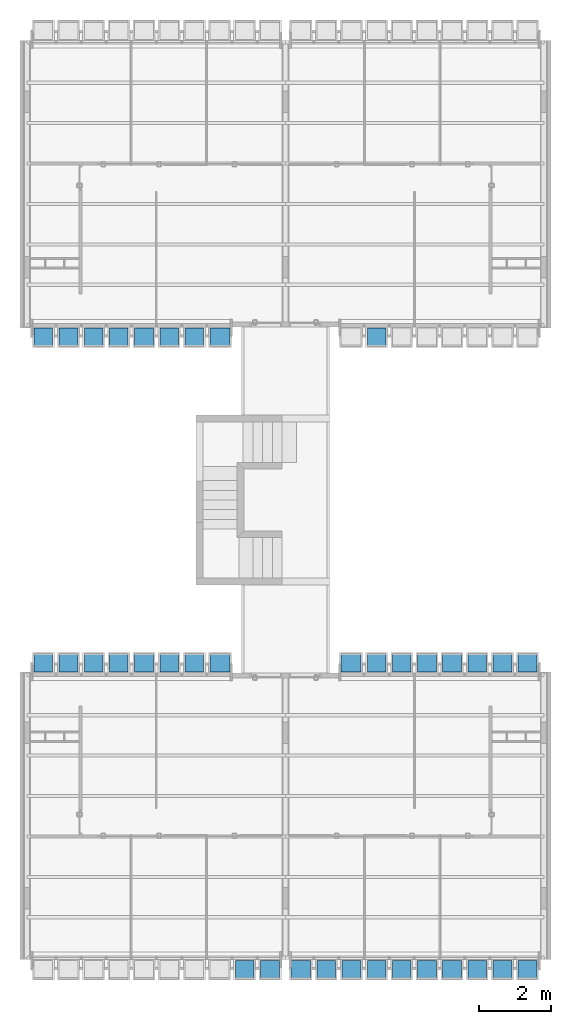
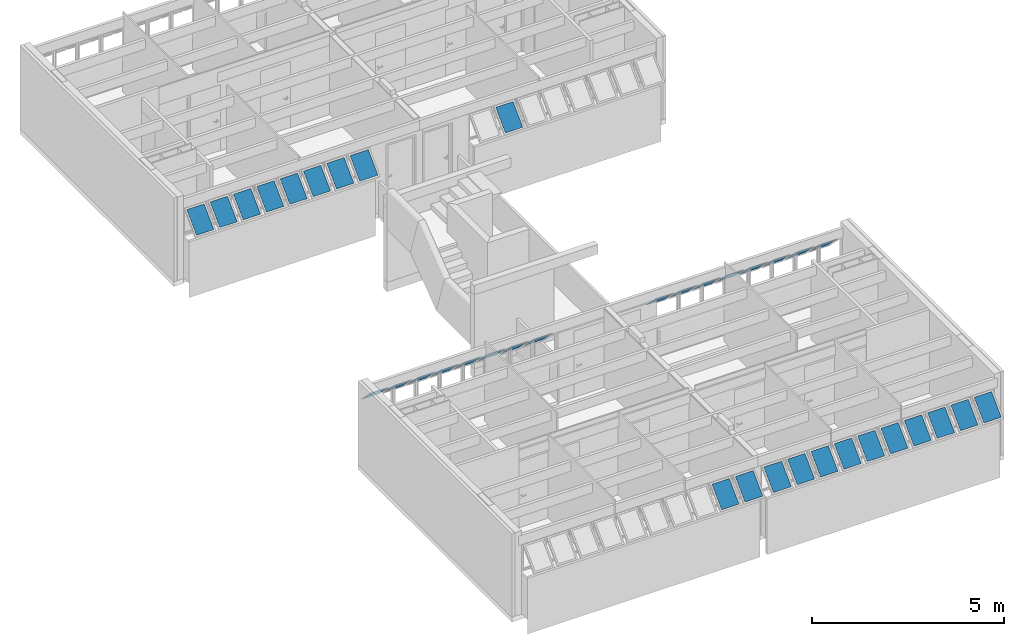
# One storey, part 35 of 37: 37 building element parts, 43 elements without a shape of their own.
"""IFC2X3 building model written with IfcOpenShell, lengths in millimetres."""

from ifc_helpers import new_model, entity, si_unit, converted_unit, derived_unit, money_unit, direction, frame, origin_with_axes, place, context, subcontext, project, spatial, faceted_brep, source, transform, mapped, material, type_object, element, aggregate, save


model = new_model("IFC2X3")

# Units and contexts
model_context = context("Model", 3, precision=0.01, world=origin_with_axes(), true_north=direction((0.0, 1.0)))
body_context = subcontext(model_context, "Body", "Model", "MODEL_VIEW")
ifc_project = project(units=[si_unit("LENGTHUNIT", "METRE", prefix="MILLI"), si_unit("AREAUNIT", "SQUARE_METRE"), si_unit("VOLUMEUNIT", "CUBIC_METRE"), converted_unit("PLANEANGLEUNIT", "DEGREE", entity("IfcPlaneAngleMeasure", 0.0174532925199), si_unit("PLANEANGLEUNIT", "RADIAN"), dimensions=[0, 0, 0, 0, 0, 0, 0]), money_unit("USD"), converted_unit("TIMEUNIT", "Year", entity("IfcTimeMeasure", 31556926.0), si_unit("TIMEUNIT", "SECOND"), dimensions=[0, 0, 1, 0, 0, 0, 0]), si_unit("MASSUNIT", "GRAM", prefix="KILO"), si_unit("THERMODYNAMICTEMPERATUREUNIT", "DEGREE_CELSIUS"), si_unit("LUMINOUSINTENSITYUNIT", "LUMEN"), si_unit("ENERGYUNIT", "JOULE", prefix="MEGA"), derived_unit("THERMALCONDUCTANCEUNIT", [(si_unit("POWERUNIT", "WATT"), 1), (si_unit("LENGTHUNIT", "METRE"), -1), (si_unit("THERMODYNAMICTEMPERATUREUNIT", "KELVIN"), -1)]), derived_unit("SPECIFICHEATCAPACITYUNIT", [(si_unit("ENERGYUNIT", "JOULE"), 1), (si_unit("MASSUNIT", "GRAM", prefix="KILO"), -1), (si_unit("THERMODYNAMICTEMPERATUREUNIT", "KELVIN"), -1)]), derived_unit("MASSDENSITYUNIT", [(si_unit("MASSUNIT", "GRAM", prefix="KILO"), 1), (si_unit("VOLUMEUNIT", "CUBIC_METRE"), -1)])], contexts=[model_context])

# Site, building, storey
site_placement = place(None, origin_with_axes())
site = spatial("IfcSite", under=ifc_project, at=site_placement, Name="Local", CompositionType="ELEMENT")
building_placement = place(site_placement, origin_with_axes())
building = spatial("IfcBuilding", under=site, at=building_placement, Name="Construção", CompositionType="ELEMENT")
storey_placement = place(building_placement, origin_with_axes())
storey = spatial("IfcBuildingStorey", under=building, at=storey_placement, Name="Primeiro Pavimento", CompositionType="ELEMENT", Elevation=0.0)

# Window, plates, building element parts
window_style = type_object("IfcWindowStyle", Name="Tipo de Parede Cortina", ConstructionType="NOTDEFINED", OperationType="NOTDEFINED", ParameterTakesPrecedence=False, Sizeable=False)
window_1_placement = place(storey_placement, frame((12020.0, 8250.0, 1355.00007107), z_axis=(0.0, 0.0, 1.0), x_axis=(1.0, 0.0, 0.0)))
window_1 = element("IfcWindow", 1, at=window_1_placement, inside=storey, type_object=window_style, Name="APTO2-JANELA-000")
plate_type_1 = type_object("IfcPlateType", Name="Painel Principal 690 x 845 x 20", PredefinedType="CURTAIN_PANEL")
plate_1_placement = place(window_1_placement, frame((0.0, 0.0, 422.499964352), z_axis=(0.0, 0.0, 1.0), x_axis=(1.0, 0.0, 0.0)))
plate_1 = element("IfcPlate", 2, at=plate_1_placement, type_object=plate_type_1, Name="APTO2-Painel-Prin-013")
ifc_material = material(Name="Vidro")
shared_shape_1 = source(origin_with_axes(), body_context, "Body", "Brep", [
    faceted_brep([(90.0000036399, 272.749572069, 537.551834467), (609.999997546, 272.749572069, 537.551834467), (609.999997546, 284.063280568, 548.865542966), (90.0000036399, 284.063280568, 548.865542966), (90.0000036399, 778.330843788, 31.9705627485), (609.999997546, 778.330843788, 31.9705627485), (609.999997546, 789.644552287, 43.2842712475), (90.0000036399, 789.644552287, 43.2842712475)], [[[0, 1, 2, 3]], [[0, 4, 5, 1]], [[1, 5, 6, 2]], [[3, 2, 6, 7]], [[4, 0, 3, 7]], [[5, 4, 7, 6]]]),
])
building_element_part_1_placement = place(plate_1_placement, origin_with_axes())
building_element_part_1 = element("IfcBuildingElementPart", 3, at=building_element_part_1_placement, material=ifc_material, Name="Vidro", context=body_context, shape_type="MappedRepresentation", body=[
    mapped(shared_shape_1, transform((350.0, 0.0, -422.499964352), x_axis=(-1.0, 0.0, 0.0), y_axis=(0.0, 0.0, 1.0), z_axis=(0.0, 1.0, 0.0))),
])
aggregate(plate_1, [building_element_part_1])
plate_2_placement = place(window_1_placement, frame((-2100.0, 0.0, 422.499964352), z_axis=(0.0, 0.0, 1.0), x_axis=(1.0, 0.0, 0.0)))
plate_2 = element("IfcPlate", 4, at=plate_2_placement, type_object=plate_type_1, Name="APTO2-Painel-Prin-029")
building_element_part_2_placement = place(plate_2_placement, origin_with_axes())
building_element_part_2 = element("IfcBuildingElementPart", 5, at=building_element_part_2_placement, material=ifc_material, Name="Vidro", context=body_context, shape_type="MappedRepresentation", body=[
    mapped(shared_shape_1, transform((350.0, 0.0, -422.499964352), x_axis=(-1.0, 0.0, 0.0), y_axis=(0.0, 0.0, 1.0), z_axis=(0.0, 1.0, 0.0))),
])
aggregate(plate_2, [building_element_part_2])

window_2_placement = place(storey_placement, frame((2750.0, 17910.0, 1355.00007107), z_axis=(0.0, 0.0, 1.0), x_axis=(1.0, 0.0, 0.0)))
window_2 = element("IfcWindow", 6, at=window_2_placement, inside=storey, type_object=window_style, Name="APTO3-JANELA-000")
plate_3_placement = place(window_2_placement, frame((0.0, 0.0, 422.499964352), z_axis=(0.0, 0.0, 1.0), x_axis=(-1.0, 0.0, 0.0)))
plate_3 = element("IfcPlate", 7, at=plate_3_placement, type_object=plate_type_1, Name="APTO3-Painel-Prin-013")
building_element_part_3_placement = place(plate_3_placement, origin_with_axes())
building_element_part_3 = element("IfcBuildingElementPart", 8, at=building_element_part_3_placement, material=ifc_material, Name="Vidro", context=body_context, shape_type="MappedRepresentation", body=[
    mapped(shared_shape_1, transform((350.0, 0.0, -422.499964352), x_axis=(-1.0, 0.0, 0.0), y_axis=(0.0, 0.0, 1.0), z_axis=(0.0, 1.0, 0.0))),
])
aggregate(plate_3, [building_element_part_3])
plate_4_placement = place(window_2_placement, frame((2100.0, 0.0, 422.499964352), z_axis=(0.0, 0.0, 1.0), x_axis=(-1.0, 0.0, 0.0)))
plate_4 = element("IfcPlate", 9, at=plate_4_placement, type_object=plate_type_1, Name="APTO3-Painel-Prin-029")
building_element_part_4_placement = place(plate_4_placement, origin_with_axes())
building_element_part_4 = element("IfcBuildingElementPart", 10, at=building_element_part_4_placement, material=ifc_material, Name="Vidro", context=body_context, shape_type="MappedRepresentation", body=[
    mapped(shared_shape_1, transform((350.0, 0.0, -422.499964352), x_axis=(-1.0, 0.0, 0.0), y_axis=(0.0, 0.0, 1.0), z_axis=(0.0, 1.0, 0.0))),
])
aggregate(plate_4, [building_element_part_4])

window_3_placement = place(storey_placement, frame((294.999984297, 315.020977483, 1355.02054151), z_axis=(0.0, 0.0, 1.0), x_axis=(1.0, 0.0, 0.0)))
window_3 = element("IfcWindow", 11, at=window_3_placement, inside=storey, type_object=window_style, Name="APTO1-JANELA-001")
plate_5_placement = place(window_3_placement, frame((5955.0000157, 0.0, 422.499945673), z_axis=(0.0, 0.0, 1.0), x_axis=(-1.0, 0.0, 0.0)))
plate_5 = element("IfcPlate", 12, at=plate_5_placement, type_object=plate_type_1, Name="APTO1-Painel-Prin-030")
building_element_part_5_placement = place(plate_5_placement, origin_with_axes())
building_element_part_5 = element("IfcBuildingElementPart", 13, at=building_element_part_5_placement, material=ifc_material, Name="Vidro", context=body_context, shape_type="MappedRepresentation", body=[
    mapped(shared_shape_1, transform((350.0, 0.0, -422.499945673), x_axis=(-1.0, 0.0, 0.0), y_axis=(0.0, 0.0, 1.0), z_axis=(0.0, 1.0, 0.0))),
])
aggregate(plate_5, [building_element_part_5])
plate_type_2 = type_object("IfcPlateType", Name="Painel Principal 685 x 845 x 20", PredefinedType="CURTAIN_PANEL")
plate_6_placement = place(window_3_placement, frame((6650.00005288, 0.0, 422.499953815), z_axis=(0.0, 0.0, 1.0), x_axis=(-1.0, 0.0, 0.0)))
plate_6 = element("IfcPlate", 14, at=plate_6_placement, type_object=plate_type_2, Name="APTO1-Painel-Prin-031")
aggregate(window_3, [plate_6, plate_5])
shared_shape_2 = source(origin_with_axes(), body_context, "Body", "Brep", [
    faceted_brep([(90.0000046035, 272.749581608, 537.551857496), (625.000079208, 272.749581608, 537.551857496), (625.000079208, 284.063290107, 548.865565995), (90.0000046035, 284.063290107, 548.865565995), (90.0000046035, 778.330876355, 31.9705627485), (625.000079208, 778.330876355, 31.9705627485), (625.000079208, 789.644584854, 43.2842712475), (90.0000046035, 789.644584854, 43.2842712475)], [[[0, 1, 2, 3]], [[0, 4, 5, 1]], [[1, 5, 6, 2]], [[3, 2, 6, 7]], [[4, 0, 3, 7]], [[5, 4, 7, 6]]]),
])
building_element_part_6_placement = place(plate_6_placement, origin_with_axes())
building_element_part_6 = element("IfcBuildingElementPart", 15, at=building_element_part_6_placement, material=ifc_material, Name="Vidro", context=body_context, shape_type="MappedRepresentation", body=[
    mapped(shared_shape_2, transform((345.000037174, 0.0, -422.499953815), x_axis=(-1.0, 0.0, 0.0), y_axis=(0.0, 0.0, 1.0), z_axis=(0.0, 1.0, 0.0))),
])
aggregate(plate_6, [building_element_part_6])

# Plate, building element part
plate_7_placement = place(window_1_placement, frame((2100.0, 0.0, 422.499998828), z_axis=(0.0, 0.0, 1.0), x_axis=(1.0, 0.0, 0.0)))
plate_7 = element("IfcPlate", 16, at=plate_7_placement, type_object=plate_type_1, Name="APTO2-Painel-Prin-013")
shared_shape_3 = source(origin_with_axes(), body_context, "Body", "Brep", [
    faceted_brep([(90.0000036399, 272.749572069, 537.551834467), (609.999997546, 272.749572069, 537.551834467), (609.999997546, 284.063280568, 548.865542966), (90.0000036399, 284.063280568, 548.865542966), (90.0000036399, 778.330843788, 31.9705627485), (609.999997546, 778.330843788, 31.9705627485), (609.999997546, 789.644552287, 43.2842712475), (90.0000036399, 789.644552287, 43.2842712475)], [[[0, 1, 2, 3]], [[0, 4, 5, 1]], [[1, 5, 6, 2]], [[3, 2, 6, 7]], [[4, 0, 3, 7]], [[5, 4, 7, 6]]]),
])
building_element_part_7_placement = place(plate_7_placement, origin_with_axes())
building_element_part_7 = element("IfcBuildingElementPart", 17, at=building_element_part_7_placement, material=ifc_material, Name="Vidro", context=body_context, shape_type="MappedRepresentation", body=[
    mapped(shared_shape_3, transform((350.0, 0.0, -422.499998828), x_axis=(-1.0, 0.0, 0.0), y_axis=(0.0, 0.0, 1.0), z_axis=(0.0, 1.0, 0.0))),
])
aggregate(plate_7, [building_element_part_7])

plate_8_placement = place(window_1_placement, frame((1400.0, 0.0, 422.499964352), z_axis=(0.0, 0.0, 1.0), x_axis=(1.0, 0.0, 0.0)))
plate_8 = element("IfcPlate", 18, at=plate_8_placement, type_object=plate_type_1, Name="APTO2-Painel-Prin-013")
building_element_part_8_placement = place(plate_8_placement, origin_with_axes())
building_element_part_8 = element("IfcBuildingElementPart", 19, at=building_element_part_8_placement, material=ifc_material, Name="Vidro", context=body_context, shape_type="MappedRepresentation", body=[
    mapped(shared_shape_3, transform((350.0, 0.0, -422.499964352), x_axis=(-1.0, 0.0, 0.0), y_axis=(0.0, 0.0, 1.0), z_axis=(0.0, 1.0, 0.0))),
])
aggregate(plate_8, [building_element_part_8])

plate_9_placement = place(window_1_placement, frame((-1400.0, 0.0, 422.499964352), z_axis=(0.0, 0.0, 1.0), x_axis=(1.0, 0.0, 0.0)))
plate_9 = element("IfcPlate", 20, at=plate_9_placement, type_object=plate_type_1, Name="APTO2-Painel-Prin-025")
building_element_part_9_placement = place(plate_9_placement, origin_with_axes())
building_element_part_9 = element("IfcBuildingElementPart", 21, at=building_element_part_9_placement, material=ifc_material, Name="Vidro", context=body_context, shape_type="MappedRepresentation", body=[
    mapped(shared_shape_3, transform((350.0, 0.0, -422.499964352), x_axis=(-1.0, 0.0, 0.0), y_axis=(0.0, 0.0, 1.0), z_axis=(0.0, 1.0, 0.0))),
])
aggregate(plate_9, [building_element_part_9])

plate_10_placement = place(window_2_placement, frame((-2100.0, 0.0, 422.499998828), z_axis=(0.0, 0.0, 1.0), x_axis=(-1.0, 0.0, 0.0)))
plate_10 = element("IfcPlate", 22, at=plate_10_placement, type_object=plate_type_1, Name="APTO3-Painel-Prin-013")
building_element_part_10_placement = place(plate_10_placement, origin_with_axes())
building_element_part_10 = element("IfcBuildingElementPart", 23, at=building_element_part_10_placement, material=ifc_material, Name="Vidro", context=body_context, shape_type="MappedRepresentation", body=[
    mapped(shared_shape_3, transform((350.0, 0.0, -422.499998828), x_axis=(-1.0, 0.0, 0.0), y_axis=(0.0, 0.0, 1.0), z_axis=(0.0, 1.0, 0.0))),
])
aggregate(plate_10, [building_element_part_10])

plate_11_placement = place(window_2_placement, frame((-1400.0, 0.0, 422.499964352), z_axis=(0.0, 0.0, 1.0), x_axis=(-1.0, 0.0, 0.0)))
plate_11 = element("IfcPlate", 24, at=plate_11_placement, type_object=plate_type_1, Name="APTO3-Painel-Prin-013")
building_element_part_11_placement = place(plate_11_placement, origin_with_axes())
building_element_part_11 = element("IfcBuildingElementPart", 25, at=building_element_part_11_placement, material=ifc_material, Name="Vidro", context=body_context, shape_type="MappedRepresentation", body=[
    mapped(shared_shape_3, transform((350.0, 0.0, -422.499964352), x_axis=(-1.0, 0.0, 0.0), y_axis=(0.0, 0.0, 1.0), z_axis=(0.0, 1.0, 0.0))),
])
aggregate(plate_11, [building_element_part_11])

plate_12_placement = place(window_2_placement, frame((1400.0, 0.0, 422.499964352), z_axis=(0.0, 0.0, 1.0), x_axis=(-1.0, 0.0, 0.0)))
plate_12 = element("IfcPlate", 26, at=plate_12_placement, type_object=plate_type_1, Name="APTO3-Painel-Prin-025")
building_element_part_12_placement = place(plate_12_placement, origin_with_axes())
building_element_part_12 = element("IfcBuildingElementPart", 27, at=building_element_part_12_placement, material=ifc_material, Name="Vidro", context=body_context, shape_type="MappedRepresentation", body=[
    mapped(shared_shape_3, transform((350.0, 0.0, -422.499964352), x_axis=(-1.0, 0.0, 0.0), y_axis=(0.0, 0.0, 1.0), z_axis=(0.0, 1.0, 0.0))),
])
aggregate(plate_12, [building_element_part_12])

plate_13_placement = place(window_1_placement, frame((-700.0, 0.0, 422.499964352), z_axis=(0.0, 0.0, 1.0), x_axis=(1.0, 0.0, 0.0)))
plate_13 = element("IfcPlate", 28, at=plate_13_placement, type_object=plate_type_1, Name="APTO2-Painel-Prin-013")
shared_shape_4 = source(origin_with_axes(), body_context, "Body", "Brep", [
    faceted_brep([(90.0000036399, 272.749572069, 537.551834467), (609.999997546, 272.749572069, 537.551834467), (609.999997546, 284.063280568, 548.865542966), (90.0000036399, 284.063280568, 548.865542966), (90.0000036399, 778.330843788, 31.9705627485), (609.999997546, 778.330843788, 31.9705627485), (609.999997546, 789.644552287, 43.2842712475), (90.0000036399, 789.644552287, 43.2842712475)], [[[0, 1, 2, 3]], [[0, 4, 5, 1]], [[1, 5, 6, 2]], [[3, 2, 6, 7]], [[4, 0, 3, 7]], [[5, 4, 7, 6]]]),
])
building_element_part_13_placement = place(plate_13_placement, origin_with_axes())
building_element_part_13 = element("IfcBuildingElementPart", 29, at=building_element_part_13_placement, material=ifc_material, Name="Vidro", context=body_context, shape_type="MappedRepresentation", body=[
    mapped(shared_shape_4, transform((350.0, 0.0, -422.499964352), x_axis=(-1.0, 0.0, 0.0), y_axis=(0.0, 0.0, 1.0), z_axis=(0.0, 1.0, 0.0))),
])
aggregate(plate_13, [building_element_part_13])

plate_14_placement = place(window_1_placement, frame((700.0, 0.0, 422.499964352), z_axis=(0.0, 0.0, 1.0), x_axis=(1.0, 0.0, 0.0)))
plate_14 = element("IfcPlate", 30, at=plate_14_placement, type_object=plate_type_1, Name="APTO2-Painel-Prin-013")
building_element_part_14_placement = place(plate_14_placement, origin_with_axes())
building_element_part_14 = element("IfcBuildingElementPart", 31, at=building_element_part_14_placement, material=ifc_material, Name="Vidro", context=body_context, shape_type="MappedRepresentation", body=[
    mapped(shared_shape_4, transform((350.0, 0.0, -422.499964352), x_axis=(-1.0, 0.0, 0.0), y_axis=(0.0, 0.0, 1.0), z_axis=(0.0, 1.0, 0.0))),
])
aggregate(plate_14, [building_element_part_14])

plate_15_placement = place(window_2_placement, frame((700.0, 0.0, 422.499964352), z_axis=(0.0, 0.0, 1.0), x_axis=(-1.0, 0.0, 0.0)))
plate_15 = element("IfcPlate", 32, at=plate_15_placement, type_object=plate_type_1, Name="APTO3-Painel-Prin-013")
building_element_part_15_placement = place(plate_15_placement, origin_with_axes())
building_element_part_15 = element("IfcBuildingElementPart", 33, at=building_element_part_15_placement, material=ifc_material, Name="Vidro", context=body_context, shape_type="MappedRepresentation", body=[
    mapped(shared_shape_4, transform((350.0, 0.0, -422.499964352), x_axis=(-1.0, 0.0, 0.0), y_axis=(0.0, 0.0, 1.0), z_axis=(0.0, 1.0, 0.0))),
])
aggregate(plate_15, [building_element_part_15])

plate_16_placement = place(window_2_placement, frame((-700.0, 0.0, 422.499964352), z_axis=(0.0, 0.0, 1.0), x_axis=(-1.0, 0.0, 0.0)))
plate_16 = element("IfcPlate", 34, at=plate_16_placement, type_object=plate_type_1, Name="APTO3-Painel-Prin-013")
building_element_part_16_placement = place(plate_16_placement, origin_with_axes())
building_element_part_16 = element("IfcBuildingElementPart", 35, at=building_element_part_16_placement, material=ifc_material, Name="Vidro", context=body_context, shape_type="MappedRepresentation", body=[
    mapped(shared_shape_4, transform((350.0, 0.0, -422.499964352), x_axis=(-1.0, 0.0, 0.0), y_axis=(0.0, 0.0, 1.0), z_axis=(0.0, 1.0, 0.0))),
])
aggregate(plate_16, [building_element_part_16])

# Window, plate, building element part
window_4_placement = place(storey_placement, frame((12020.0, 17910.0, 1355.00007107), z_axis=(0.0, 0.0, 1.0), x_axis=(1.0, 0.0, 0.0)))
window_4 = element("IfcWindow", 36, at=window_4_placement, inside=storey, type_object=window_style, Name="APTO4-JANELA-000")
plate_17_placement = place(window_4_placement, frame((-2100.0, 0.0, 422.499964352), z_axis=(0.0, 0.0, 1.0), x_axis=(1.0, 0.0, 0.0)))
plate_17 = element("IfcPlate", 37, at=plate_17_placement, type_object=plate_type_1, Name="APTO4-Painel-Prin-029")
aggregate(window_4, [plate_17])
shared_shape_5 = source(origin_with_axes(), body_context, "Body", "Brep", [
    faceted_brep([(-90.0000036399, 272.749572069, 537.551834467), (-90.0000036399, 284.063280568, 548.865542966), (-609.999997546, 284.063280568, 548.865542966), (-609.999997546, 272.749572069, 537.551834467), (-90.0000036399, 778.330843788, 31.9705627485), (-90.0000036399, 789.644552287, 43.2842712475), (-609.999997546, 789.644552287, 43.2842712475), (-609.999997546, 778.330843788, 31.9705627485)], [[[0, 1, 2, 3]], [[4, 5, 1, 0]], [[1, 5, 6, 2]], [[3, 2, 6, 7]], [[0, 3, 7, 4]], [[7, 6, 5, 4]]]),
])
building_element_part_17_placement = place(plate_17_placement, origin_with_axes())
building_element_part_17 = element("IfcBuildingElementPart", 38, at=building_element_part_17_placement, material=ifc_material, Name="Vidro", context=body_context, shape_type="MappedRepresentation", body=[
    mapped(shared_shape_5, transform((350.0, 0.0, -422.499964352), x_axis=(1.0, 0.0, 0.0), y_axis=(0.0, 0.0, 1.0), z_axis=(0.0, -1.0, 0.0))),
])
aggregate(plate_17, [building_element_part_17])

# Window, plates, building element parts
window_5_placement = place(storey_placement, frame((8520.0, 315.020977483, 1355.02054151), z_axis=(0.0, 0.0, 1.0), x_axis=(1.0, 0.0, 0.0)))
window_5 = element("IfcWindow", 39, at=window_5_placement, inside=storey, type_object=window_style, Name="APTO2-JANELA-001")
plate_18_placement = place(window_5_placement, frame((0.0, 0.0, 422.499945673), z_axis=(0.0, 0.0, 1.0), x_axis=(1.0, 0.0, 0.0)))
plate_18 = element("IfcPlate", 40, at=plate_18_placement, type_object=plate_type_1, Name="APTO2-Painel-Prin-030")
building_element_part_18_placement = place(plate_18_placement, origin_with_axes())
building_element_part_18 = element("IfcBuildingElementPart", 41, at=building_element_part_18_placement, material=ifc_material, Name="Vidro", context=body_context, shape_type="MappedRepresentation", body=[
    mapped(shared_shape_5, transform((350.0, 0.0, -422.499945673), x_axis=(1.0, 0.0, 0.0), y_axis=(0.0, 0.0, 1.0), z_axis=(0.0, -1.0, 0.0))),
])
aggregate(plate_18, [building_element_part_18])
plate_19_placement = place(window_5_placement, frame((700.0, 0.0, 422.499945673), z_axis=(0.0, 0.0, 1.0), x_axis=(1.0, 0.0, 0.0)))
plate_19 = element("IfcPlate", 42, at=plate_19_placement, type_object=plate_type_1, Name="APTO2-Painel-Prin-020")
building_element_part_19_placement = place(plate_19_placement, origin_with_axes())
building_element_part_19 = element("IfcBuildingElementPart", 43, at=building_element_part_19_placement, material=ifc_material, Name="Vidro", context=body_context, shape_type="MappedRepresentation", body=[
    mapped(shared_shape_5, transform((350.0, 0.0, -422.499945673), x_axis=(1.0, 0.0, 0.0), y_axis=(0.0, 0.0, 1.0), z_axis=(0.0, -1.0, 0.0))),
])
aggregate(plate_19, [building_element_part_19])
plate_20_placement = place(window_5_placement, frame((1400.0, 0.0, 422.499945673), z_axis=(0.0, 0.0, 1.0), x_axis=(1.0, 0.0, 0.0)))
plate_20 = element("IfcPlate", 44, at=plate_20_placement, type_object=plate_type_1, Name="APTO2-Painel-Prin-029")
building_element_part_20_placement = place(plate_20_placement, origin_with_axes())
building_element_part_20 = element("IfcBuildingElementPart", 45, at=building_element_part_20_placement, material=ifc_material, Name="Vidro", context=body_context, shape_type="MappedRepresentation", body=[
    mapped(shared_shape_5, transform((350.0, 0.0, -422.499945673), x_axis=(1.0, 0.0, 0.0), y_axis=(0.0, 0.0, 1.0), z_axis=(0.0, -1.0, 0.0))),
])
aggregate(plate_20, [building_element_part_20])
plate_21_placement = place(window_5_placement, frame((3500.0, 0.0, 422.499945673), z_axis=(0.0, 0.0, 1.0), x_axis=(1.0, 0.0, 0.0)))
plate_21 = element("IfcPlate", 46, at=plate_21_placement, type_object=plate_type_1, Name="APTO2-Painel-Prin-013")
building_element_part_21_placement = place(plate_21_placement, origin_with_axes())
building_element_part_21 = element("IfcBuildingElementPart", 47, at=building_element_part_21_placement, material=ifc_material, Name="Vidro", context=body_context, shape_type="MappedRepresentation", body=[
    mapped(shared_shape_5, transform((350.0, 0.0, -422.499945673), x_axis=(1.0, 0.0, 0.0), y_axis=(0.0, 0.0, 1.0), z_axis=(0.0, -1.0, 0.0))),
])
aggregate(plate_21, [building_element_part_21])

window_6_placement = place(storey_placement, frame((294.99998404, 8250.0, 1355.00007107), z_axis=(0.0, 0.0, 1.0), x_axis=(1.0, 0.0, 0.0)))
window_6 = element("IfcWindow", 48, at=window_6_placement, inside=storey, type_object=window_style, Name="APTO1-JANELA-000")
plate_22_placement = place(window_6_placement, frame((4555.00001596, 0.0, 422.499964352), z_axis=(0.0, 0.0, 1.0), x_axis=(-1.0, 0.0, 0.0)))
plate_22 = element("IfcPlate", 49, at=plate_22_placement, type_object=plate_type_1, Name="APTO1-Painel-Prin-029")
building_element_part_22_placement = place(plate_22_placement, origin_with_axes())
building_element_part_22 = element("IfcBuildingElementPart", 50, at=building_element_part_22_placement, material=ifc_material, Name="Vidro", context=body_context, shape_type="MappedRepresentation", body=[
    mapped(shared_shape_5, transform((350.0, 0.0, -422.499964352), x_axis=(1.0, 0.0, 0.0), y_axis=(0.0, 0.0, 1.0), z_axis=(0.0, -1.0, 0.0))),
])
aggregate(plate_22, [building_element_part_22])
plate_23_placement = place(window_6_placement, frame((2455.00001596, 0.0, 422.499964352), z_axis=(0.0, 0.0, 1.0), x_axis=(-1.0, 0.0, 0.0)))
plate_23 = element("IfcPlate", 51, at=plate_23_placement, type_object=plate_type_1, Name="APTO1-Painel-Prin-013")
building_element_part_23_placement = place(plate_23_placement, origin_with_axes())
building_element_part_23 = element("IfcBuildingElementPart", 52, at=building_element_part_23_placement, material=ifc_material, Name="Vidro", context=body_context, shape_type="MappedRepresentation", body=[
    mapped(shared_shape_5, transform((350.0, 0.0, -422.499964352), x_axis=(1.0, 0.0, 0.0), y_axis=(0.0, 0.0, 1.0), z_axis=(0.0, -1.0, 0.0))),
])
aggregate(plate_23, [building_element_part_23])

# Plate, building element part
plate_24_placement = place(window_5_placement, frame((5600.0, 0.0, 422.499945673), z_axis=(0.0, 0.0, 1.0), x_axis=(1.0, 0.0, 0.0)))
plate_24 = element("IfcPlate", 53, at=plate_24_placement, type_object=plate_type_1, Name="APTO2-Painel-Prin-013")
shared_shape_6 = source(origin_with_axes(), body_context, "Body", "Brep", [
    faceted_brep([(-90.0000036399, 272.749572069, 537.551834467), (-90.0000036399, 284.063280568, 548.865542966), (-609.999997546, 284.063280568, 548.865542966), (-609.999997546, 272.749572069, 537.551834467), (-90.0000036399, 778.330843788, 31.9705627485), (-90.0000036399, 789.644552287, 43.2842712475), (-609.999997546, 789.644552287, 43.2842712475), (-609.999997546, 778.330843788, 31.9705627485)], [[[0, 1, 2, 3]], [[4, 5, 1, 0]], [[1, 5, 6, 2]], [[3, 2, 6, 7]], [[0, 3, 7, 4]], [[7, 6, 5, 4]]]),
])
building_element_part_24_placement = place(plate_24_placement, origin_with_axes())
building_element_part_24 = element("IfcBuildingElementPart", 54, at=building_element_part_24_placement, material=ifc_material, Name="Vidro", context=body_context, shape_type="MappedRepresentation", body=[
    mapped(shared_shape_6, transform((350.0, 0.0, -422.499945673), x_axis=(1.0, 0.0, 0.0), y_axis=(0.0, 0.0, 1.0), z_axis=(0.0, -1.0, 0.0))),
])
aggregate(plate_24, [building_element_part_24])

plate_25_placement = place(window_5_placement, frame((4900.0, 0.0, 422.499945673), z_axis=(0.0, 0.0, 1.0), x_axis=(1.0, 0.0, 0.0)))
plate_25 = element("IfcPlate", 55, at=plate_25_placement, type_object=plate_type_1, Name="APTO2-Painel-Prin-013")
building_element_part_25_placement = place(plate_25_placement, origin_with_axes())
building_element_part_25 = element("IfcBuildingElementPart", 56, at=building_element_part_25_placement, material=ifc_material, Name="Vidro", context=body_context, shape_type="MappedRepresentation", body=[
    mapped(shared_shape_6, transform((350.0, 0.0, -422.499945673), x_axis=(1.0, 0.0, 0.0), y_axis=(0.0, 0.0, 1.0), z_axis=(0.0, -1.0, 0.0))),
])
aggregate(plate_25, [building_element_part_25])

plate_26_placement = place(window_5_placement, frame((2100.0, 0.0, 422.499945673), z_axis=(0.0, 0.0, 1.0), x_axis=(1.0, 0.0, 0.0)))
plate_26 = element("IfcPlate", 57, at=plate_26_placement, type_object=plate_type_1, Name="APTO2-Painel-Prin-025")
building_element_part_26_placement = place(plate_26_placement, origin_with_axes())
building_element_part_26 = element("IfcBuildingElementPart", 58, at=building_element_part_26_placement, material=ifc_material, Name="Vidro", context=body_context, shape_type="MappedRepresentation", body=[
    mapped(shared_shape_6, transform((350.0, 0.0, -422.499945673), x_axis=(1.0, 0.0, 0.0), y_axis=(0.0, 0.0, 1.0), z_axis=(0.0, -1.0, 0.0))),
])
aggregate(plate_26, [building_element_part_26])

plate_27_placement = place(window_6_placement, frame((3855.00001596, 0.0, 422.499964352), z_axis=(0.0, 0.0, 1.0), x_axis=(-1.0, 0.0, 0.0)))
plate_27 = element("IfcPlate", 59, at=plate_27_placement, type_object=plate_type_1, Name="APTO1-Painel-Prin-025")
building_element_part_27_placement = place(plate_27_placement, origin_with_axes())
building_element_part_27 = element("IfcBuildingElementPart", 60, at=building_element_part_27_placement, material=ifc_material, Name="Vidro", context=body_context, shape_type="MappedRepresentation", body=[
    mapped(shared_shape_6, transform((350.0, 0.0, -422.499964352), x_axis=(1.0, 0.0, 0.0), y_axis=(0.0, 0.0, 1.0), z_axis=(0.0, -1.0, 0.0))),
])
aggregate(plate_27, [building_element_part_27])

plate_28_placement = place(window_6_placement, frame((1055.00001596, 0.0, 422.499964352), z_axis=(0.0, 0.0, 1.0), x_axis=(-1.0, 0.0, 0.0)))
plate_28 = element("IfcPlate", 61, at=plate_28_placement, type_object=plate_type_1, Name="APTO1-Painel-Prin-013")
building_element_part_28_placement = place(plate_28_placement, origin_with_axes())
building_element_part_28 = element("IfcBuildingElementPart", 62, at=building_element_part_28_placement, material=ifc_material, Name="Vidro", context=body_context, shape_type="MappedRepresentation", body=[
    mapped(shared_shape_6, transform((350.0, 0.0, -422.499964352), x_axis=(1.0, 0.0, 0.0), y_axis=(0.0, 0.0, 1.0), z_axis=(0.0, -1.0, 0.0))),
])
aggregate(plate_28, [building_element_part_28])

plate_29_placement = place(window_6_placement, frame((355.00001596, 0.0, 422.499998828), z_axis=(0.0, 0.0, 1.0), x_axis=(-1.0, 0.0, 0.0)))
plate_29 = element("IfcPlate", 63, at=plate_29_placement, type_object=plate_type_1, Name="APTO1-Painel-Prin-013")
building_element_part_29_placement = place(plate_29_placement, origin_with_axes())
building_element_part_29 = element("IfcBuildingElementPart", 64, at=building_element_part_29_placement, material=ifc_material, Name="Vidro", context=body_context, shape_type="MappedRepresentation", body=[
    mapped(shared_shape_6, transform((350.0, 0.0, -422.499998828), x_axis=(1.0, 0.0, 0.0), y_axis=(0.0, 0.0, 1.0), z_axis=(0.0, -1.0, 0.0))),
])
aggregate(plate_29, [building_element_part_29])

plate_30_placement = place(window_5_placement, frame((2800.0, 0.0, 422.499945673), z_axis=(0.0, 0.0, 1.0), x_axis=(1.0, 0.0, 0.0)))
plate_30 = element("IfcPlate", 65, at=plate_30_placement, type_object=plate_type_1, Name="APTO2-Painel-Prin-013")
shared_shape_7 = source(origin_with_axes(), body_context, "Body", "Brep", [
    faceted_brep([(-90.0000036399, 272.749572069, 537.551834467), (-90.0000036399, 284.063280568, 548.865542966), (-609.999997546, 284.063280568, 548.865542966), (-609.999997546, 272.749572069, 537.551834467), (-90.0000036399, 778.330843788, 31.9705627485), (-90.0000036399, 789.644552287, 43.2842712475), (-609.999997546, 789.644552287, 43.2842712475), (-609.999997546, 778.330843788, 31.9705627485)], [[[0, 1, 2, 3]], [[4, 5, 1, 0]], [[1, 5, 6, 2]], [[3, 2, 6, 7]], [[0, 3, 7, 4]], [[7, 6, 5, 4]]]),
])
building_element_part_30_placement = place(plate_30_placement, origin_with_axes())
building_element_part_30 = element("IfcBuildingElementPart", 66, at=building_element_part_30_placement, material=ifc_material, Name="Vidro", context=body_context, shape_type="MappedRepresentation", body=[
    mapped(shared_shape_7, transform((350.0, 0.0, -422.499945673), x_axis=(1.0, 0.0, 0.0), y_axis=(0.0, 0.0, 1.0), z_axis=(0.0, -1.0, 0.0))),
])
aggregate(plate_30, [building_element_part_30])

plate_31_placement = place(window_5_placement, frame((4200.0, 0.0, 422.499945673), z_axis=(0.0, 0.0, 1.0), x_axis=(1.0, 0.0, 0.0)))
plate_31 = element("IfcPlate", 67, at=plate_31_placement, type_object=plate_type_1, Name="APTO2-Painel-Prin-013")
building_element_part_31_placement = place(plate_31_placement, origin_with_axes())
building_element_part_31 = element("IfcBuildingElementPart", 68, at=building_element_part_31_placement, material=ifc_material, Name="Vidro", context=body_context, shape_type="MappedRepresentation", body=[
    mapped(shared_shape_7, transform((350.0, 0.0, -422.499945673), x_axis=(1.0, 0.0, 0.0), y_axis=(0.0, 0.0, 1.0), z_axis=(0.0, -1.0, 0.0))),
])
aggregate(plate_31, [building_element_part_31])

plate_32_placement = place(window_6_placement, frame((1755.00001596, 0.0, 422.499964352), z_axis=(0.0, 0.0, 1.0), x_axis=(-1.0, 0.0, 0.0)))
plate_32 = element("IfcPlate", 69, at=plate_32_placement, type_object=plate_type_1, Name="APTO1-Painel-Prin-013")
building_element_part_32_placement = place(plate_32_placement, origin_with_axes())
building_element_part_32 = element("IfcBuildingElementPart", 70, at=building_element_part_32_placement, material=ifc_material, Name="Vidro", context=body_context, shape_type="MappedRepresentation", body=[
    mapped(shared_shape_7, transform((350.0, 0.0, -422.499964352), x_axis=(1.0, 0.0, 0.0), y_axis=(0.0, 0.0, 1.0), z_axis=(0.0, -1.0, 0.0))),
])
aggregate(plate_32, [building_element_part_32])

plate_33_placement = place(window_6_placement, frame((3155.00001596, 0.0, 422.499964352), z_axis=(0.0, 0.0, 1.0), x_axis=(-1.0, 0.0, 0.0)))
plate_33 = element("IfcPlate", 71, at=plate_33_placement, type_object=plate_type_1, Name="APTO1-Painel-Prin-013")
building_element_part_33_placement = place(plate_33_placement, origin_with_axes())
building_element_part_33 = element("IfcBuildingElementPart", 72, at=building_element_part_33_placement, material=ifc_material, Name="Vidro", context=body_context, shape_type="MappedRepresentation", body=[
    mapped(shared_shape_7, transform((350.0, 0.0, -422.499964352), x_axis=(1.0, 0.0, 0.0), y_axis=(0.0, 0.0, 1.0), z_axis=(0.0, -1.0, 0.0))),
])
aggregate(plate_33, [building_element_part_33])

# Plate
plate_type_3 = type_object("IfcPlateType", Name="Painel Principal 695 x 845 x 20", PredefinedType="CURTAIN_PANEL")
plate_34_placement = place(window_6_placement, frame((5255.00001596, 0.0, 422.499986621), z_axis=(0.0, 0.0, 1.0), x_axis=(-1.0, 0.0, 0.0)))
plate_34 = element("IfcPlate", 73, at=plate_34_placement, type_object=plate_type_3, Name="APTO1-Painel-Prin-020")

aggregate(window_6, [plate_32, plate_34, plate_27, plate_33, plate_28, plate_29, plate_22, plate_23])

# Building element part
shared_shape_8 = source(origin_with_axes(), body_context, "Body", "Brep", [
    faceted_brep([(-90.0000062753, 272.749598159, 537.551897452), (-90.0000062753, 284.063306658, 548.865605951), (-634.999999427, 284.063306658, 548.865605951), (-634.999999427, 272.749598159, 537.551897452), (-90.0000062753, 778.330932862, 31.9705627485), (-90.0000062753, 789.644641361, 43.2842712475), (-634.999999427, 789.644641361, 43.2842712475), (-634.999999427, 778.330932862, 31.9705627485)], [[[0, 1, 2, 3]], [[4, 5, 1, 0]], [[1, 5, 6, 2]], [[3, 2, 6, 7]], [[0, 3, 7, 4]], [[7, 6, 5, 4]]]),
])
building_element_part_34_placement = place(plate_34_placement, origin_with_axes())
building_element_part_34 = element("IfcBuildingElementPart", 74, at=building_element_part_34_placement, material=ifc_material, Name="Vidro", context=body_context, shape_type="MappedRepresentation", body=[
    mapped(shared_shape_8, transform((350.0, 0.0, -422.499986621), x_axis=(1.0, 0.0, 0.0), y_axis=(0.0, 0.0, 1.0), z_axis=(0.0, -1.0, 0.0))),
])

aggregate(plate_34, [building_element_part_34])

# Plate
plate_35_placement = place(window_5_placement, frame((-695.000037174, 0.0, 422.499953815), z_axis=(0.0, 0.0, 1.0), x_axis=(1.0, 0.0, 0.0)))
plate_35 = element("IfcPlate", 75, at=plate_35_placement, type_object=plate_type_2, Name="APTO2-Painel-Prin-031")

aggregate(window_5, [plate_18, plate_35, plate_24, plate_25, plate_30, plate_26, plate_19, plate_31, plate_20, plate_21])

# Building element part
shared_shape_9 = source(origin_with_axes(), body_context, "Body", "Brep", [
    faceted_brep([(-90.0000046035, 272.749581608, 537.551857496), (-90.0000046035, 284.063290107, 548.865565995), (-625.000079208, 284.063290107, 548.865565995), (-625.000079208, 272.749581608, 537.551857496), (-90.0000046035, 778.330876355, 31.9705627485), (-90.0000046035, 789.644584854, 43.2842712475), (-625.000079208, 789.644584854, 43.2842712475), (-625.000079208, 778.330876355, 31.9705627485)], [[[0, 1, 2, 3]], [[4, 5, 1, 0]], [[1, 5, 6, 2]], [[3, 2, 6, 7]], [[0, 3, 7, 4]], [[7, 6, 5, 4]]]),
])
building_element_part_35_placement = place(plate_35_placement, origin_with_axes())
building_element_part_35 = element("IfcBuildingElementPart", 76, at=building_element_part_35_placement, material=ifc_material, Name="Vidro", context=body_context, shape_type="MappedRepresentation", body=[
    mapped(shared_shape_9, transform((345.000037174, 0.0, -422.499953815), x_axis=(1.0, 0.0, 0.0), y_axis=(0.0, 0.0, 1.0), z_axis=(0.0, -1.0, 0.0))),
])

aggregate(plate_35, [building_element_part_35])

# Plate
plate_36_placement = place(window_1_placement, frame((-2800.0, 0.0, 422.499986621), z_axis=(0.0, 0.0, 1.0), x_axis=(1.0, 0.0, 0.0)))
plate_36 = element("IfcPlate", 77, at=plate_36_placement, type_object=plate_type_3, Name="APTO2-Painel-Prin-020")

aggregate(window_1, [plate_1, plate_2, plate_7, plate_8, plate_13, plate_9, plate_36, plate_14])

# Building element part
shared_shape_10 = source(origin_with_axes(), body_context, "Body", "Brep", [
    faceted_brep([(90.0000062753, 272.749598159, 537.551897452), (634.999999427, 272.749598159, 537.551897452), (634.999999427, 284.063306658, 548.865605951), (90.0000062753, 284.063306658, 548.865605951), (90.0000062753, 778.330932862, 31.9705627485), (634.999999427, 778.330932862, 31.9705627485), (634.999999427, 789.644641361, 43.2842712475), (90.0000062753, 789.644641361, 43.2842712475)], [[[0, 1, 2, 3]], [[0, 4, 5, 1]], [[1, 5, 6, 2]], [[3, 2, 6, 7]], [[4, 0, 3, 7]], [[5, 4, 7, 6]]]),
])
building_element_part_36_placement = place(plate_36_placement, origin_with_axes())
building_element_part_36 = element("IfcBuildingElementPart", 78, at=building_element_part_36_placement, material=ifc_material, Name="Vidro", context=body_context, shape_type="MappedRepresentation", body=[
    mapped(shared_shape_10, transform((350.0, 0.0, -422.499986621), x_axis=(-1.0, 0.0, 0.0), y_axis=(0.0, 0.0, 1.0), z_axis=(0.0, 1.0, 0.0))),
])

aggregate(plate_36, [building_element_part_36])

# Plate
plate_37_placement = place(window_2_placement, frame((2800.0, 0.0, 422.499986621), z_axis=(0.0, 0.0, 1.0), x_axis=(-1.0, 0.0, 0.0)))
plate_37 = element("IfcPlate", 79, at=plate_37_placement, type_object=plate_type_3, Name="APTO3-Painel-Prin-020")

aggregate(window_2, [plate_3, plate_4, plate_10, plate_11, plate_15, plate_12, plate_37, plate_16])

# Building element part
building_element_part_37_placement = place(plate_37_placement, origin_with_axes())
building_element_part_37 = element("IfcBuildingElementPart", 80, at=building_element_part_37_placement, material=ifc_material, Name="Vidro", context=body_context, shape_type="MappedRepresentation", body=[
    mapped(shared_shape_10, transform((350.0, 0.0, -422.499986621), x_axis=(-1.0, 0.0, 0.0), y_axis=(0.0, 0.0, 1.0), z_axis=(0.0, 1.0, 0.0))),
])

aggregate(plate_37, [building_element_part_37])

save(model, "model.ifc")
